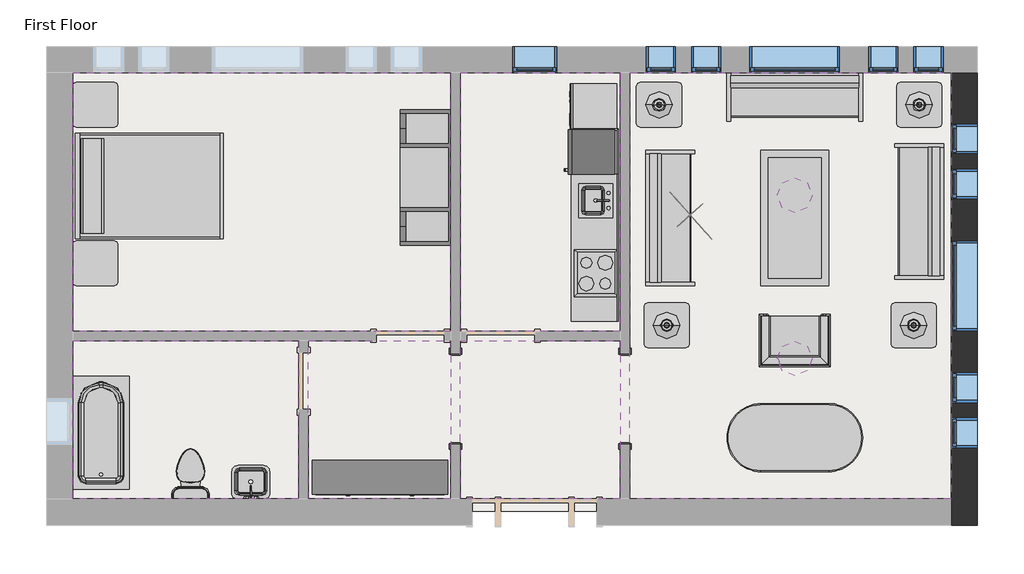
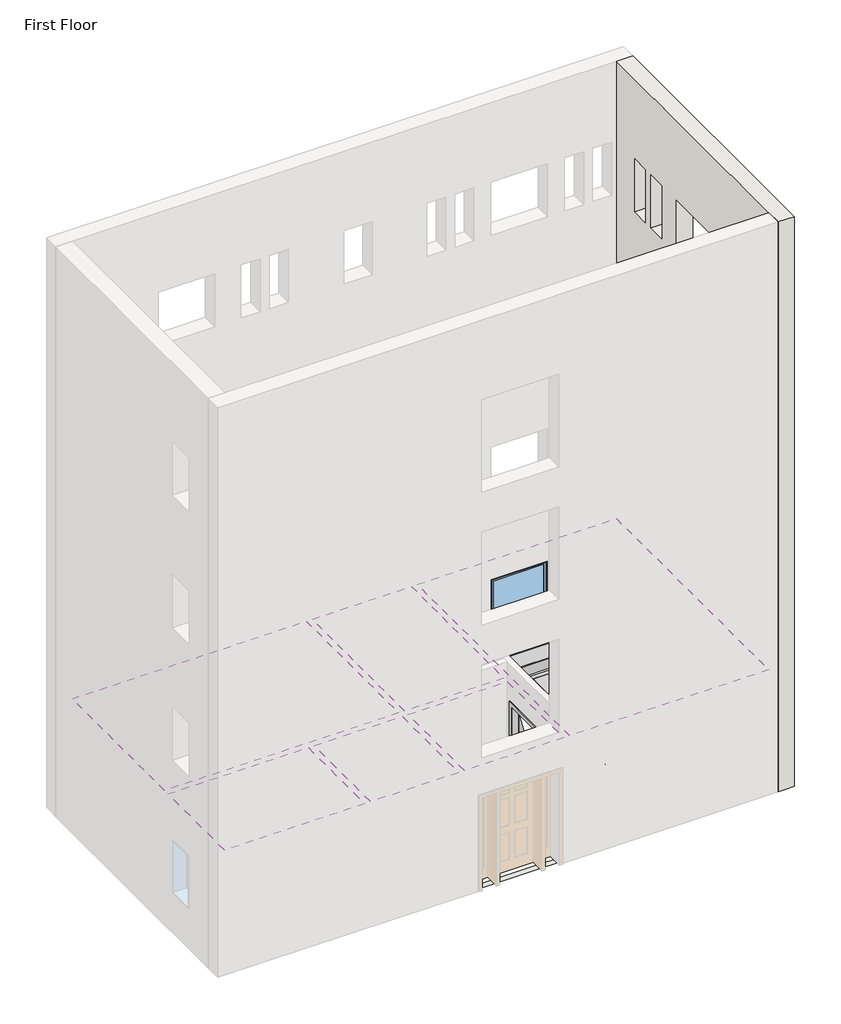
# One storey, part 2 of 2: 16 furniture elements, 11 windows, 7 proxies, 6 coverings, 6 light fixtures, 4 flow terminals, 1 slab, 1 wall.
"""IFC4 building model written with IfcOpenShell, lengths in millimetres."""

from ifc_helpers import new_model, si_unit, frame, origin, place, context, project, spatial, polyline, outline, extrude, faceted_brep, transform, mapped, element, save
from components import proxy_dfcd9396, proxy_3c49123c, proxy_7a545507, proxy_f44482cc, rpc_female_69e001fa, proxy_ec3341c2, flow_terminal_41332a36, flow_terminal_62a433f7, toilet_domestic_3d_toilet_domestic_3d_f7549cf7, toilet_domestic_3d_toilet_domestic_3d_183bbd19, tub_rectangular_3d_tub_rectangular_3d_15036965, furniture_096e7f55, chair_corbu_chair_corbu_2764bdef, furniture_6db689a5, furniture_7c473f12, furniture_cf0b6580, furniture_a4ffab56, furniture_cd93a443, furniture_2c34a4f9, furniture_3a588284, pendant_light_disk_100w_120v_c68bffb6, table_lamp_standard_60w_120v_6e8cd8b1, window_da97879f, window_d61ef850, window_60baf983, window_6eb97611

model = new_model("IFC4")

# Units and contexts
model_context = context("Model", 3, world=origin())
ifc_project = project(units=[si_unit("LENGTHUNIT", "METRE", prefix="MILLI")], contexts=[model_context])

# Site, building, storey
site = spatial("IfcSite", under=ifc_project)
building = spatial("IfcBuilding", under=site)
storey = spatial("IfcBuildingStorey", under=building, Name="First Floor", Elevation=0.0)

# Proxies
placement = place(None, origin())
proxy_shape = proxy_dfcd9396(model_context)
element("IfcBuildingElementProxy", 1, Name="Cook Top-4 Unit2 : 22\" x 20\"", ObjectType="Cook Top-4 Unit2 : 22\" x 20\"", at=placement, inside=storey, context=model_context, shape_type="MappedRepresentation", body=[
    mapped(proxy_shape, transform((-4167.1589563, 7568.5224391, 0.0), x_axis=(0.0, 1.0000000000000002, 0.0), y_axis=(-1.0000000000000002, 0.0, 0.0), z_axis=(0.0, 0.0, 1.0))),
])
proxy_2_shape = proxy_3c49123c(model_context)
element("IfcBuildingElementProxy", 2, Name="Dishwasher : 24\" x 24\" x 34\"", ObjectType="Dishwasher : 24\" x 24\" x 34\"", at=placement, inside=storey, context=model_context, shape_type="MappedRepresentation", body=[
    mapped(proxy_2_shape, transform((-4459.0085211, 9434.1049706, 0.0), x_axis=(0.0, 1.0000000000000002, 0.0), y_axis=(-1.0000000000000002, 0.0, 0.0), z_axis=(0.0, 0.0, 1.0))),
])
proxy_3_shape = proxy_7a545507(model_context)
element("IfcBuildingElementProxy", 3, Name="Kitchenette - Medium : 8'6\"", ObjectType="Kitchenette - Medium : 8'6\"", at=placement, inside=storey, context=model_context, shape_type="MappedRepresentation", body=[
    mapped(proxy_3_shape, transform((-3862.3589563, 8197.4847342, 0.0), x_axis=(0.0, 1.0000000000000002, 0.0), y_axis=(-1.0000000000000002, 0.0, 0.0), z_axis=(0.0, 0.0, 1.0))),
])
proxy_4_shape = proxy_f44482cc(model_context)
element("IfcBuildingElementProxy", 4, Name="Opening-Cased : 48\" x 84\"", ObjectType="Opening-Cased : 48\" x 84\"", at=placement, inside=storey, context=model_context, shape_type="MappedRepresentation", body=[
    mapped(proxy_4_shape, transform((-3773.4589563, 5882.4203434, 0.0), x_axis=(0.0, 1.0, 0.0), y_axis=(-1.0, 0.0, 0.0), z_axis=(0.0, 0.0, 1.0))),
])
element("IfcBuildingElementProxy", 5, Name="Opening-Cased : 48\" x 84\"", ObjectType="Opening-Cased : 48\" x 84\"", at=placement, inside=storey, context=model_context, shape_type="MappedRepresentation", body=[
    mapped(proxy_4_shape, transform((-6059.4589563, 5866.04303, 0.0), x_axis=(0.0, -1.0, 0.0), y_axis=(1.0, 0.0, 0.0), z_axis=(0.0, 0.0, 1.0))),
])
rpc_female_shape = rpc_female_69e001fa(model_context)
element("IfcBuildingElementProxy", 6, Name="RPC Female : Cynthia", ObjectType="RPC Female : Cynthia", at=placement, inside=storey, context=model_context, shape_type="MappedRepresentation", body=[
    mapped(rpc_female_shape, transform((-2793.743807, 8229.6, -0.79375), x_axis=(0.74728204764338, 0.6645069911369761, 0.0), y_axis=(-0.6645069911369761, 0.74728204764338, 0.0), z_axis=(0.0, 0.0, 1.0))),
])
proxy_5_shape = proxy_ec3341c2(model_context)
element("IfcBuildingElementProxy", 7, Name="Refrigerator : 24\" x 25\" LH", ObjectType="Refrigerator : 24\" x 25\" LH", at=placement, inside=storey, context=model_context, shape_type="MappedRepresentation", body=[
    mapped(proxy_5_shape, transform((-4212.8079278, 9200.4724391, 0.0), x_axis=(0.0, 1.0000000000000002, 0.0), y_axis=(-1.0000000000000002, 0.0, 0.0), z_axis=(0.0, 0.0, 1.0))),
])

# Coverings
element("IfcCovering", 8, ObjectType="GWB on Mtl. Stud", at=placement, inside=storey, context=model_context, shape_type="SweptSolid", body=[
    extrude(outline(polyline([(-11217.2464563, 10270.0191867), (-6122.9589563, 10270.0191867), (-6122.9589563, 6787.0441867), (-11217.2464563, 6787.0441867), (-11217.2464563, 10270.0191867)])), frame((0.0, 0.0, 2590.8), z_axis=(0.0, 0.0, 1.0), x_axis=(1.0, 0.0, 0.0)), (0.0, 0.0, 1.0), 107.95),
])
element("IfcCovering", 9, ObjectType="GWB on Mtl. Stud", at=placement, inside=storey, context=model_context, shape_type="SweptSolid", body=[
    extrude(outline(polyline([(-5995.9589563, 6787.0441867), (-5995.9589563, 10270.0191867), (-3836.9589563, 10270.0191867), (-3836.9589563, 6787.0441867), (-5995.9589563, 6787.0441867)])), frame((0.0, 0.0, 2590.8), z_axis=(0.0, 0.0, 1.0), x_axis=(1.0, 0.0, 0.0)), (0.0, 0.0, 1.0), 107.95),
])
element("IfcCovering", 10, ObjectType="GWB on Mtl. Stud", at=placement, inside=storey, context=model_context, shape_type="SweptSolid", body=[
    extrude(outline(polyline([(-3709.9589563, 4526.4441867), (-3709.9589563, 10270.0191867), (622.3285437, 10270.0191867), (622.3285437, 4526.4441867), (-3709.9589563, 4526.4441867)])), frame((0.0, 0.0, 2590.8), z_axis=(0.0, 0.0, 1.0), x_axis=(1.0, 0.0, 0.0)), (0.0, 0.0, 1.0), 107.95),
])
element("IfcCovering", 11, ObjectType="GWB on Mtl. Stud", at=placement, inside=storey, context=model_context, shape_type="SweptSolid", body=[
    extrude(outline(polyline([(-3836.9589563, 4526.4441867), (-5995.9589563, 4526.4441867), (-5995.9589563, 6660.0441867), (-3836.9589563, 6660.0441867), (-3836.9589563, 4526.4441867)])), frame((0.0, 0.0, 2590.8), z_axis=(0.0, 0.0, 1.0), x_axis=(1.0, 0.0, 0.0)), (0.0, 0.0, 1.0), 107.95),
])
element("IfcCovering", 12, ObjectType="GWB on Mtl. Stud", at=placement, inside=storey, context=model_context, shape_type="SweptSolid", body=[
    extrude(outline(polyline([(-8169.2464563, 6660.0441867), (-8169.2464563, 4526.4441867), (-11217.2464563, 4526.4441867), (-11217.2464563, 6660.0441867), (-8169.2464563, 6660.0441867)])), frame((0.0, 0.0, 2590.8), z_axis=(0.0, 0.0, 1.0), x_axis=(1.0, 0.0, 0.0)), (0.0, 0.0, 1.0), 107.95),
])
element("IfcCovering", 13, ObjectType="GWB on Mtl. Stud", at=placement, inside=storey, context=model_context, shape_type="SweptSolid", body=[
    extrude(outline(polyline([(-6122.9589563, 4526.4441867), (-8042.2464563, 4526.4441867), (-8042.2464563, 6660.0441867), (-6122.9589563, 6660.0441867), (-6122.9589563, 4526.4441867)])), frame((0.0, 0.0, 2590.8), z_axis=(0.0, 0.0, 1.0), x_axis=(1.0, 0.0, 0.0)), (0.0, 0.0, 1.0), 107.95),
])

# Flow terminals
flow_terminal_shape = flow_terminal_41332a36(model_context)
element("IfcFlowTerminal", 14, ObjectType="Sink Kitchen-Island : 18\" x 18\"", at=placement, inside=storey, context=model_context, shape_type="MappedRepresentation", body=[
    mapped(flow_terminal_shape, transform((-4169.5043574, 8530.7331986, -14.4), x_axis=(0.0, 1.0000000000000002, 0.0), y_axis=(-1.0000000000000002, 0.0, 0.0), z_axis=(0.0, 0.0, 1.0))),
])
flow_terminal_2_shape = flow_terminal_62a433f7(model_context)
element("IfcFlowTerminal", 15, ObjectType="Sink Vanity-Square : 20\" x 18\"", at=placement, inside=storey, context=model_context, shape_type="MappedRepresentation", body=[
    mapped(flow_terminal_2_shape, transform((-8801.2572158, 4706.5895878, 0.0), x_axis=(-1.0, 0.0, 0.0), y_axis=(0.0, -1.0, 0.0), z_axis=(0.0, 0.0, 1.0))),
])
toilet_domestic_3d_toilet_domestic_3d_shape = toilet_domestic_3d_toilet_domestic_3d_f7549cf7(model_context)
toilet_domestic_3d_toilet_domestic_3d_2_shape = toilet_domestic_3d_toilet_domestic_3d_183bbd19(model_context)
element("IfcFlowTerminal", 16, ObjectType="Toilet-Domestic-3D : Toilet-Domestic-3D", at=placement, inside=storey, context=model_context, shape_type="MappedRepresentation", body=[
    mapped(toilet_domestic_3d_toilet_domestic_3d_shape, transform((-9629.7464563, 4894.7441867, 0.0), x_axis=(-1.0, 0.0, 0.0), y_axis=(0.0, -1.0, 0.0), z_axis=(0.0, 0.0, 1.0))),
    mapped(toilet_domestic_3d_toilet_domestic_3d_2_shape, transform((-9629.7464563, 4894.7441867, 0.0), x_axis=(-1.0, 0.0, 0.0), y_axis=(0.0, -1.0, 0.0), z_axis=(0.0, 0.0, 1.0))),
])
tub_rectangular_3d_tub_rectangular_3d_shape = tub_rectangular_3d_tub_rectangular_3d_15036965(model_context)
element("IfcFlowTerminal", 17, ObjectType="Tub-Rectangular-3D : Tub-Rectangular-3D", at=placement, inside=storey, context=model_context, shape_type="MappedRepresentation", body=[
    mapped(tub_rectangular_3d_tub_rectangular_3d_shape, transform((-11393.4589563, 5765.6346554, 0.0), x_axis=(0.0, 1.0, 0.0), y_axis=(-1.0, 0.0, 0.0), z_axis=(0.0, 0.0, 1.0))),
])

# Furniture
furniture_shape = furniture_096e7f55(model_context)
element("IfcFurniture", 18, ObjectType="Bed-Shaker : Double 56\" x 78\"", at=placement, inside=storey, context=model_context, shape_type="MappedRepresentation", body=[
    mapped(furniture_shape, transform((-11172.0857802, 8763.4816867, 0.0), x_axis=(0.0, 1.0, 0.0), y_axis=(-1.0, 0.0, 0.0), z_axis=(0.0, 0.0, 1.0))),
])
chair_corbu_chair_corbu_shape = chair_corbu_chair_corbu_2764bdef(model_context)
element("IfcFurniture", 19, ObjectType="Chair-Corbu : Chair-Corbu", at=placement, inside=storey, context=model_context, shape_type="MappedRepresentation", body=[
    mapped(chair_corbu_chair_corbu_shape, transform((-914.0851858, 7126.8212359, 0.0), x_axis=(-1.0, 0.0, 0.0), y_axis=(0.0, -1.0, 0.0), z_axis=(0.0, 0.0, 1.0))),
])
furniture_2_shape = furniture_6db689a5(model_context)
element("IfcFurniture", 20, ObjectType="Counter Top w Sink Hole : 24\" Depth", at=placement, inside=storey, context=model_context, shape_type="MappedRepresentation", body=[
    mapped(furniture_2_shape, transform((-3862.3589563, 8121.2847342, -14.4), x_axis=(0.0, 1.0000000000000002, 0.0), y_axis=(-1.0000000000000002, 0.0, 0.0), z_axis=(0.0, 0.0, 1.0))),
])
furniture_3_shape = furniture_7c473f12(model_context)
element("IfcFurniture", 21, ObjectType="Dresser : 72\" x 60\" x 18\"", at=placement, inside=storey, context=model_context, shape_type="MappedRepresentation", body=[
    mapped(furniture_3_shape, transform((-6806.2656965, 5181.7071408, 0.0), x_axis=(1.0, 0.0, 0.0), y_axis=(0.0, 1.0, 0.0), z_axis=(0.0, 0.0, 1.0))),
])
furniture_4_shape = furniture_cf0b6580(model_context)
element("IfcFurniture", 22, ObjectType="Entertainment Center : 72\" x 72\" x 24\"", at=placement, inside=storey, context=model_context, shape_type="MappedRepresentation", body=[
    mapped(furniture_4_shape, transform((-6021.3589563, 8857.1441867, 0.0), x_axis=(0.0, -1.0, 0.0), y_axis=(1.0, 0.0, 0.0), z_axis=(0.0, 0.0, 1.0))),
])
furniture_5_shape = furniture_a4ffab56(model_context)
element("IfcFurniture", 23, ObjectType="Sofa : 72\"", at=placement, inside=storey, context=model_context, shape_type="MappedRepresentation", body=[
    mapped(furniture_5_shape, transform((-3017.704858, 8242.2611949, 0.0), x_axis=(0.0, 1.0, 0.0), y_axis=(-1.0, 0.0, 0.0), z_axis=(0.0, 0.0, 1.0))),
])
element("IfcFurniture", 24, ObjectType="Sofa : 72\"", at=placement, inside=storey, context=model_context, shape_type="MappedRepresentation", body=[
    mapped(furniture_5_shape, transform((-1557.8294481, 9801.5748071, 0.0), x_axis=(1.0, 0.0, 0.0), y_axis=(0.0, 1.0, 0.0), z_axis=(0.0, 0.0, 1.0))),
])
element("IfcFurniture", 25, ObjectType="Sofa : 72\"", at=placement, inside=storey, context=model_context, shape_type="MappedRepresentation", body=[
    mapped(furniture_5_shape, transform((42.7869453, 8470.3146785, 0.0), x_axis=(0.0, -1.0, 0.0), y_axis=(1.0, 0.0, 0.0), z_axis=(0.0, 0.0, 1.0))),
])
furniture_6_shape = furniture_cd93a443(model_context)
element("IfcFurniture", 26, ObjectType="Table-Coffee : 36\" x 72\" x 18\"", at=placement, inside=storey, context=model_context, shape_type="MappedRepresentation", body=[
    mapped(furniture_6_shape, transform((-1392.2478785, 8294.36592, 0.0), x_axis=(0.0, 1.0, 0.0), y_axis=(-1.0, 0.0, 0.0), z_axis=(0.0, 0.0, 1.0))),
])
furniture_7_shape = furniture_2c34a4f9(model_context)
element("IfcFurniture", 27, ObjectType="Table-Dining Oval : 36\" x 72\"", at=placement, inside=storey, context=model_context, shape_type="MappedRepresentation", body=[
    mapped(furniture_7_shape, transform((-1085.6392842, 5710.0425473, 0.0), x_axis=(1.0, 0.0, 0.0), y_axis=(0.0, 1.0, 0.0), z_axis=(0.0, 0.0, 1.0))),
])
furniture_8_shape = furniture_3a588284(model_context)
element("IfcFurniture", 28, ObjectType="Table-End : 24\" x 24\"", at=placement, inside=storey, context=model_context, shape_type="MappedRepresentation", body=[
    mapped(furniture_8_shape, transform((-119.5925866, 9684.2316867, 0.0), x_axis=(1.0, 0.0, 0.0), y_axis=(0.0, 1.0, 0.0), z_axis=(0.0, 0.0, 1.0))),
])
element("IfcFurniture", 29, ObjectType="Table-End : 24\" x 24\"", at=placement, inside=storey, context=model_context, shape_type="MappedRepresentation", body=[
    mapped(furniture_8_shape, transform((-11220.9800866, 7550.6316867, 0.0), x_axis=(1.0, 0.0, 0.0), y_axis=(0.0, 1.0, 0.0), z_axis=(0.0, 0.0, 1.0))),
])
element("IfcFurniture", 30, ObjectType="Table-End : 24\" x 24\"", at=placement, inside=storey, context=model_context, shape_type="MappedRepresentation", body=[
    mapped(furniture_8_shape, transform((-11220.9800866, 9684.2316867, 0.0), x_axis=(1.0, 0.0, 0.0), y_axis=(0.0, 1.0, 0.0), z_axis=(0.0, 0.0, 1.0))),
])
element("IfcFurniture", 31, ObjectType="Table-End : 24\" x 24\"", at=placement, inside=storey, context=model_context, shape_type="MappedRepresentation", body=[
    mapped(furniture_8_shape, transform((-3624.7925866, 9684.2316867, 0.0), x_axis=(1.0, 0.0, 0.0), y_axis=(0.0, 1.0, 0.0), z_axis=(0.0, 0.0, 1.0))),
])
element("IfcFurniture", 32, ObjectType="Table-End : 24\" x 24\"", at=placement, inside=storey, context=model_context, shape_type="MappedRepresentation", body=[
    mapped(furniture_8_shape, transform((-3521.0782623, 6714.242027, 0.0), x_axis=(1.0, 0.0, 0.0), y_axis=(0.0, 1.0, 0.0), z_axis=(0.0, 0.0, 1.0))),
])
element("IfcFurniture", 33, ObjectType="Table-End : 24\" x 24\"", at=placement, inside=storey, context=model_context, shape_type="MappedRepresentation", body=[
    mapped(furniture_8_shape, transform((-193.6782623, 6714.242027, 0.0), x_axis=(1.0, 0.0, 0.0), y_axis=(0.0, 1.0, 0.0), z_axis=(0.0, 0.0, 1.0))),
])

# Light fixtures
pendant_light_disk_100w_120v_shape = pendant_light_disk_100w_120v_c68bffb6(model_context)
element("IfcLightFixture", 34, ObjectType="Pendant Light - Disk : 100W - 120V", at=placement, inside=storey, context=model_context, shape_type="MappedRepresentation", body=[
    mapped(pendant_light_disk_100w_120v_shape, transform((-1487.4589563, 8617.4316867, 152.3999938), x_axis=(1.0, 0.0, 0.0), y_axis=(0.0, 1.0, 0.0), z_axis=(0.0, 0.0, 1.0))),
])
element("IfcLightFixture", 35, ObjectType="Pendant Light - Disk : 100W - 120V", at=placement, inside=storey, context=model_context, shape_type="MappedRepresentation", body=[
    mapped(pendant_light_disk_100w_120v_shape, transform((-1487.4589563, 6418.7441867, 152.3999938), x_axis=(1.0, 0.0, 0.0), y_axis=(0.0, 1.0, 0.0), z_axis=(0.0, 0.0, 1.0))),
])
table_lamp_standard_60w_120v_shape = table_lamp_standard_60w_120v_6e8cd8b1(model_context)
element("IfcLightFixture", 36, ObjectType="Table Lamp - Standard : 60W - 120V", at=placement, inside=storey, context=model_context, shape_type="MappedRepresentation", body=[
    mapped(table_lamp_standard_60w_120v_shape, transform((-3316.2589563, 9836.6316867, 381.0), x_axis=(1.0, 0.0, 0.0), y_axis=(0.0, 1.0, 0.0), z_axis=(0.0, 0.0, 1.0))),
])
element("IfcLightFixture", 37, ObjectType="Table Lamp - Standard : 60W - 120V", at=placement, inside=storey, context=model_context, shape_type="MappedRepresentation", body=[
    mapped(table_lamp_standard_60w_120v_shape, transform((188.9410437, 9836.6316867, 381.0), x_axis=(1.0, 0.0, 0.0), y_axis=(0.0, 1.0, 0.0), z_axis=(0.0, 0.0, 1.0))),
])
element("IfcLightFixture", 38, ObjectType="Table Lamp - Standard : 60W - 120V", at=placement, inside=storey, context=model_context, shape_type="MappedRepresentation", body=[
    mapped(table_lamp_standard_60w_120v_shape, transform((-3212.544632, 6866.642027, 381.0), x_axis=(1.0, 0.0, 0.0), y_axis=(0.0, 1.0, 0.0), z_axis=(0.0, 0.0, 1.0))),
])
element("IfcLightFixture", 39, ObjectType="Table Lamp - Standard : 60W - 120V", at=placement, inside=storey, context=model_context, shape_type="MappedRepresentation", body=[
    mapped(table_lamp_standard_60w_120v_shape, transform((114.855368, 6866.642027, 381.0), x_axis=(1.0, 0.0, 0.0), y_axis=(0.0, 1.0, 0.0), z_axis=(0.0, 0.0, 1.0))),
])

# Slab
element("IfcSlab", 40, ObjectType="LW Concrete on Metal Deck", at=placement, inside=storey, context=model_context, shape_type="SweptSolid", body=[
    extrude(outline(polyline([(787.4285437, 10435.1191867), (787.4285437, 4361.3441867), (-11382.3464563, 4361.3441867), (-11382.3464563, 10435.1191867), (787.4285437, 10435.1191867)])), frame((0.0, 0.0, -104.775), z_axis=(0.0, 0.0, 1.0), x_axis=(1.0, 0.0, 0.0)), (0.0, 0.0, 1.0), 104.775),
])

# Wall
element("IfcWall", 41, ObjectType="Exterior - Brick on Mtl. Stud", at=placement, inside=storey, context=model_context, shape_type="Brep", body=[
    faceted_brep([(622.3285437, 10270.0191867, 13106.4), (622.3285437, 4526.4441867, 13106.4), (622.3285437, 4174.0191867, 13106.4), (974.7535437, 4174.0191867, 13106.4), (974.7535437, 10270.0191867, 13106.4), (622.3285437, 10270.0191867, 0.0), (622.3285437, 4526.4441867, 0.0), (622.3285437, 4361.3441867, 0.0), (622.3285437, 4174.0191867, 0.0), (622.3285437, 5823.4316867, 8229.6), (622.3285437, 5823.4316867, 7010.4), (622.3285437, 6229.8316867, 7010.4), (622.3285437, 6229.8316867, 8229.6), (622.3285437, 5213.8316867, 8229.6), (622.3285437, 5213.8316867, 7010.4), (622.3285437, 5620.2316867, 7010.4), (622.3285437, 5620.2316867, 8229.6), (622.3285437, 8973.0316867, 8229.6), (622.3285437, 8566.6316867, 8229.6), (622.3285437, 8566.6316867, 7010.4), (622.3285437, 8973.0316867, 7010.4), (622.3285437, 9582.6316867, 8229.6), (622.3285437, 9176.2316867, 8229.6), (622.3285437, 9176.2316867, 7010.4), (622.3285437, 9582.6316867, 7010.4), (622.3285437, 8007.8316867, 8229.6), (622.3285437, 6788.6316867, 8229.6), (622.3285437, 6788.6316867, 7010.4), (622.3285437, 8007.8316867, 7010.4), (622.3285437, 5823.4316867, 5181.6), (622.3285437, 5823.4316867, 3962.4), (622.3285437, 6229.8316867, 3962.4), (622.3285437, 6229.8316867, 5181.6), (622.3285437, 5213.8316867, 5181.6), (622.3285437, 5213.8316867, 3962.4), (622.3285437, 5620.2316867, 3962.4), (622.3285437, 5620.2316867, 5181.6), (622.3285437, 8973.0316867, 5181.6), (622.3285437, 8566.6316867, 5181.6), (622.3285437, 8566.6316867, 3962.4), (622.3285437, 8973.0316867, 3962.4), (622.3285437, 9582.6316867, 5181.6), (622.3285437, 9176.2316867, 5181.6), (622.3285437, 9176.2316867, 3962.4), (622.3285437, 9582.6316867, 3962.4), (622.3285437, 8007.8316867, 5181.6), (622.3285437, 6788.6316867, 5181.6), (622.3285437, 6788.6316867, 3962.4), (622.3285437, 8007.8316867, 3962.4), (622.3285437, 5823.4316867, 11277.6), (622.3285437, 5823.4316867, 10058.4), (622.3285437, 6229.8316867, 10058.4), (622.3285437, 6229.8316867, 11277.6), (622.3285437, 5213.8316867, 11277.6), (622.3285437, 5213.8316867, 10058.4), (622.3285437, 5620.2316867, 10058.4), (622.3285437, 5620.2316867, 11277.6), (622.3285437, 8973.0316867, 11277.6), (622.3285437, 8566.6316867, 11277.6), (622.3285437, 8566.6316867, 10058.4), (622.3285437, 8973.0316867, 10058.4), (622.3285437, 9582.6316867, 11277.6), (622.3285437, 9176.2316867, 11277.6), (622.3285437, 9176.2316867, 10058.4), (622.3285437, 9582.6316867, 10058.4), (622.3285437, 8007.8316867, 11277.6), (622.3285437, 6788.6316867, 11277.6), (622.3285437, 6788.6316867, 10058.4), (622.3285437, 8007.8316867, 10058.4), (622.3285437, 8973.0316867, 2133.6), (622.3285437, 8566.6316867, 2133.6), (622.3285437, 8566.6316867, 914.4), (622.3285437, 8973.0316867, 914.4), (622.3285437, 9582.6316867, 2133.6), (622.3285437, 9176.2316867, 2133.6), (622.3285437, 9176.2316867, 914.4), (622.3285437, 9582.6316867, 914.4), (622.3285437, 8007.8316867, 2133.6), (622.3285437, 6788.6316867, 2133.6), (622.3285437, 6788.6316867, 914.4), (622.3285437, 8007.8316867, 914.4), (622.3285437, 5213.8316867, 2133.6), (622.3285437, 5213.8316867, 914.4), (622.3285437, 5620.2316867, 914.4), (622.3285437, 5620.2316867, 2133.6), (622.3285437, 5823.4316867, 2133.6), (622.3285437, 5823.4316867, 914.4), (622.3285437, 6229.8316867, 914.4), (622.3285437, 6229.8316867, 2133.6), (974.7535437, 10270.0191867, 0.0), (974.7535437, 4174.0191867, 0.0), (974.7535437, 4361.3441867, 0.0), (974.7535437, 5823.4316867, 8229.6), (974.7535437, 6229.8316867, 8229.6), (974.7535437, 6229.8316867, 7010.4), (974.7535437, 5823.4316867, 7010.4), (974.7535437, 5213.8316867, 8229.6), (974.7535437, 5620.2316867, 8229.6), (974.7535437, 5620.2316867, 7010.4), (974.7535437, 5213.8316867, 7010.4), (974.7535437, 8973.0316867, 8229.6), (974.7535437, 8973.0316867, 7010.4), (974.7535437, 8566.6316867, 7010.4), (974.7535437, 8566.6316867, 8229.6), (974.7535437, 9582.6316867, 8229.6), (974.7535437, 9582.6316867, 7010.4), (974.7535437, 9176.2316867, 7010.4), (974.7535437, 9176.2316867, 8229.6), (974.7535437, 8007.8316867, 8229.6), (974.7535437, 8007.8316867, 7010.4), (974.7535437, 6788.6316867, 7010.4), (974.7535437, 6788.6316867, 8229.6), (974.7535437, 5823.4316867, 5181.6), (974.7535437, 6229.8316867, 5181.6), (974.7535437, 6229.8316867, 3962.4), (974.7535437, 5823.4316867, 3962.4), (974.7535437, 5213.8316867, 5181.6), (974.7535437, 5620.2316867, 5181.6), (974.7535437, 5620.2316867, 3962.4), (974.7535437, 5213.8316867, 3962.4), (974.7535437, 8973.0316867, 5181.6), (974.7535437, 8973.0316867, 3962.4), (974.7535437, 8566.6316867, 3962.4), (974.7535437, 8566.6316867, 5181.6), (974.7535437, 9582.6316867, 5181.6), (974.7535437, 9582.6316867, 3962.4), (974.7535437, 9176.2316867, 3962.4), (974.7535437, 9176.2316867, 5181.6), (974.7535437, 8007.8316867, 5181.6), (974.7535437, 8007.8316867, 3962.4), (974.7535437, 6788.6316867, 3962.4), (974.7535437, 6788.6316867, 5181.6), (974.7535437, 5823.4316867, 11277.6), (974.7535437, 6229.8316867, 11277.6), (974.7535437, 6229.8316867, 10058.4), (974.7535437, 5823.4316867, 10058.4), (974.7535437, 5213.8316867, 11277.6), (974.7535437, 5620.2316867, 11277.6), (974.7535437, 5620.2316867, 10058.4), (974.7535437, 5213.8316867, 10058.4), (974.7535437, 8973.0316867, 11277.6), (974.7535437, 8973.0316867, 10058.4), (974.7535437, 8566.6316867, 10058.4), (974.7535437, 8566.6316867, 11277.6), (974.7535437, 9582.6316867, 11277.6), (974.7535437, 9582.6316867, 10058.4), (974.7535437, 9176.2316867, 10058.4), (974.7535437, 9176.2316867, 11277.6), (974.7535437, 8007.8316867, 11277.6), (974.7535437, 8007.8316867, 10058.4), (974.7535437, 6788.6316867, 10058.4), (974.7535437, 6788.6316867, 11277.6), (974.7535437, 8973.0316867, 2133.6), (974.7535437, 8973.0316867, 914.4), (974.7535437, 8566.6316867, 914.4), (974.7535437, 8566.6316867, 2133.6), (974.7535437, 9582.6316867, 2133.6), (974.7535437, 9582.6316867, 914.4), (974.7535437, 9176.2316867, 914.4), (974.7535437, 9176.2316867, 2133.6), (974.7535437, 8007.8316867, 2133.6), (974.7535437, 8007.8316867, 914.4), (974.7535437, 6788.6316867, 914.4), (974.7535437, 6788.6316867, 2133.6), (974.7535437, 5213.8316867, 2133.6), (974.7535437, 5620.2316867, 2133.6), (974.7535437, 5620.2316867, 914.4), (974.7535437, 5213.8316867, 914.4), (974.7535437, 5823.4316867, 2133.6), (974.7535437, 6229.8316867, 2133.6), (974.7535437, 6229.8316867, 914.4), (974.7535437, 5823.4316867, 914.4), (787.4285437, 10270.0191867, 0.0), (787.4285437, 4174.0191867, 0.0), (787.4285437, 4361.3441867, 0.0)], [[[0, 1, 2, 3, 4]], [[5, 6, 7, 8, 2, 1, 0], [9, 10, 11, 12], [13, 14, 15, 16], [17, 18, 19, 20], [21, 22, 23, 24], [25, 26, 27, 28], [29, 30, 31, 32], [33, 34, 35, 36], [37, 38, 39, 40], [41, 42, 43, 44], [45, 46, 47, 48], [49, 50, 51, 52], [53, 54, 55, 56], [57, 58, 59, 60], [61, 62, 63, 64], [65, 66, 67, 68], [69, 70, 71, 72], [73, 74, 75, 76], [77, 78, 79, 80], [81, 82, 83, 84], [85, 86, 87, 88]], [[89, 4, 3, 90, 91], [92, 93, 94, 95], [96, 97, 98, 99], [100, 101, 102, 103], [104, 105, 106, 107], [108, 109, 110, 111], [112, 113, 114, 115], [116, 117, 118, 119], [120, 121, 122, 123], [124, 125, 126, 127], [128, 129, 130, 131], [132, 133, 134, 135], [136, 137, 138, 139], [140, 141, 142, 143], [144, 145, 146, 147], [148, 149, 150, 151], [152, 153, 154, 155], [156, 157, 158, 159], [160, 161, 162, 163], [164, 165, 166, 167], [168, 169, 170, 171]], [[5, 0, 4, 89, 172]], [[2, 8, 173, 90, 3]], [[172, 89, 91, 174]], [[8, 7, 174, 173]], [[174, 91, 90, 173]], [[7, 6, 5, 172, 174]], [[10, 9, 92, 95]], [[11, 10, 95, 94]], [[12, 11, 94, 93]], [[9, 12, 93, 92]], [[14, 13, 96, 99]], [[15, 14, 99, 98]], [[16, 15, 98, 97]], [[13, 16, 97, 96]], [[101, 100, 17, 20]], [[102, 101, 20, 19]], [[103, 102, 19, 18]], [[100, 103, 18, 17]], [[105, 104, 21, 24]], [[106, 105, 24, 23]], [[107, 106, 23, 22]], [[104, 107, 22, 21]], [[109, 108, 25, 28]], [[110, 109, 28, 27]], [[111, 110, 27, 26]], [[108, 111, 26, 25]], [[30, 29, 112, 115]], [[31, 30, 115, 114]], [[32, 31, 114, 113]], [[29, 32, 113, 112]], [[34, 33, 116, 119]], [[35, 34, 119, 118]], [[36, 35, 118, 117]], [[33, 36, 117, 116]], [[121, 120, 37, 40]], [[122, 121, 40, 39]], [[123, 122, 39, 38]], [[120, 123, 38, 37]], [[125, 124, 41, 44]], [[126, 125, 44, 43]], [[127, 126, 43, 42]], [[124, 127, 42, 41]], [[129, 128, 45, 48]], [[130, 129, 48, 47]], [[131, 130, 47, 46]], [[128, 131, 46, 45]], [[50, 49, 132, 135]], [[51, 50, 135, 134]], [[52, 51, 134, 133]], [[49, 52, 133, 132]], [[54, 53, 136, 139]], [[55, 54, 139, 138]], [[56, 55, 138, 137]], [[53, 56, 137, 136]], [[141, 140, 57, 60]], [[142, 141, 60, 59]], [[143, 142, 59, 58]], [[140, 143, 58, 57]], [[145, 144, 61, 64]], [[146, 145, 64, 63]], [[147, 146, 63, 62]], [[144, 147, 62, 61]], [[149, 148, 65, 68]], [[150, 149, 68, 67]], [[151, 150, 67, 66]], [[148, 151, 66, 65]], [[153, 152, 69, 72]], [[154, 153, 72, 71]], [[155, 154, 71, 70]], [[152, 155, 70, 69]], [[157, 156, 73, 76]], [[158, 157, 76, 75]], [[159, 158, 75, 74]], [[156, 159, 74, 73]], [[161, 160, 77, 80]], [[162, 161, 80, 79]], [[163, 162, 79, 78]], [[160, 163, 78, 77]], [[82, 81, 164, 167]], [[83, 82, 167, 166]], [[84, 83, 166, 165]], [[81, 84, 165, 164]], [[86, 85, 168, 171]], [[87, 86, 171, 170]], [[88, 87, 170, 169]], [[85, 88, 169, 168]]]),
])

# Windows
window_shape = window_da97879f(model_context)
element("IfcWindow", 42, ObjectType="Fixed : 16\" x 48\"", at=placement, inside=storey, context=model_context, shape_type="MappedRepresentation", body=[
    mapped(window_shape, transform((-3328.9589563, 10446.2316867, 0.0), x_axis=(-1.0, 0.0, 0.0), y_axis=(0.0, -1.0, 0.0), z_axis=(0.0, 0.0, 1.0))),
])
element("IfcWindow", 43, ObjectType="Fixed : 16\" x 48\"", at=placement, inside=storey, context=model_context, shape_type="MappedRepresentation", body=[
    mapped(window_shape, transform((-2719.3589563, 10446.2316867, 0.0), x_axis=(-1.0, 0.0, 0.0), y_axis=(0.0, -1.0, 0.0), z_axis=(0.0, 0.0, 1.0))),
])
element("IfcWindow", 44, ObjectType="Fixed : 16\" x 48\"", at=placement, inside=storey, context=model_context, shape_type="MappedRepresentation", body=[
    mapped(window_shape, transform((798.5410437, 9417.5316867, 0.0), x_axis=(0.0, 1.0, 0.0), y_axis=(-1.0, 0.0, 0.0), z_axis=(0.0, 0.0, 1.0))),
])
element("IfcWindow", 45, ObjectType="Fixed : 16\" x 48\"", at=placement, inside=storey, context=model_context, shape_type="MappedRepresentation", body=[
    mapped(window_shape, transform((798.5410437, 8807.9316867, 0.0), x_axis=(0.0, 1.0, 0.0), y_axis=(-1.0, 0.0, 0.0), z_axis=(0.0, 0.0, 1.0))),
])
window_2_shape = window_d61ef850(model_context)
element("IfcWindow", 46, ObjectType="Fixed : 16\" x 48\"", at=placement, inside=storey, context=model_context, shape_type="MappedRepresentation", body=[
    mapped(window_2_shape, transform((354.0410437, 10446.2316867, 0.0), x_axis=(1.0, 0.0, 0.0), y_axis=(0.0, 1.0, 0.0), z_axis=(0.0, 0.0, 1.0))),
])
element("IfcWindow", 47, ObjectType="Fixed : 16\" x 48\"", at=placement, inside=storey, context=model_context, shape_type="MappedRepresentation", body=[
    mapped(window_2_shape, transform((-255.5589563, 10446.2316867, 0.0), x_axis=(1.0, 0.0, 0.0), y_axis=(0.0, 1.0, 0.0), z_axis=(0.0, 0.0, 1.0))),
])
element("IfcWindow", 48, ObjectType="Fixed : 16\" x 48\"", at=placement, inside=storey, context=model_context, shape_type="MappedRepresentation", body=[
    mapped(window_2_shape, transform((798.5410437, 5378.9316867, 0.0), x_axis=(0.0, -1.0, 0.0), y_axis=(1.0, 0.0, 0.0), z_axis=(0.0, 0.0, 1.0))),
])
element("IfcWindow", 49, ObjectType="Fixed : 16\" x 48\"", at=placement, inside=storey, context=model_context, shape_type="MappedRepresentation", body=[
    mapped(window_2_shape, transform((798.5410437, 5988.5316867, 0.0), x_axis=(0.0, -1.0, 0.0), y_axis=(1.0, 0.0, 0.0), z_axis=(0.0, 0.0, 1.0))),
])
window_3_shape = window_60baf983(model_context)
element("IfcWindow", 50, ObjectType="Fixed : 24\" x 48\"", at=placement, inside=storey, context=model_context, shape_type="MappedRepresentation", body=[
    mapped(window_3_shape, transform((-5030.7589563, 10446.2316867, 0.0), x_axis=(-1.0, 0.0, 0.0), y_axis=(0.0, -1.0, 0.0), z_axis=(0.0, 0.0, 1.0))),
])
window_4_shape = window_6eb97611(model_context)
element("IfcWindow", 51, ObjectType="Fixed : 48\" x 48\"", at=placement, inside=storey, context=model_context, shape_type="MappedRepresentation", body=[
    mapped(window_4_shape, transform((-1525.5589563, 10446.2316867, 0.0), x_axis=(-1.0, 0.0, 0.0), y_axis=(0.0, -1.0, 0.0), z_axis=(0.0, 0.0, 1.0))),
])
element("IfcWindow", 52, ObjectType="Fixed : 48\" x 48\"", at=placement, inside=storey, context=model_context, shape_type="MappedRepresentation", body=[
    mapped(window_4_shape, transform((798.5410437, 7436.3316867, 0.0), x_axis=(0.0, 1.0, 0.0), y_axis=(-1.0, 0.0, 0.0), z_axis=(0.0, 0.0, 1.0))),
])

save(model, "model.ifc")
